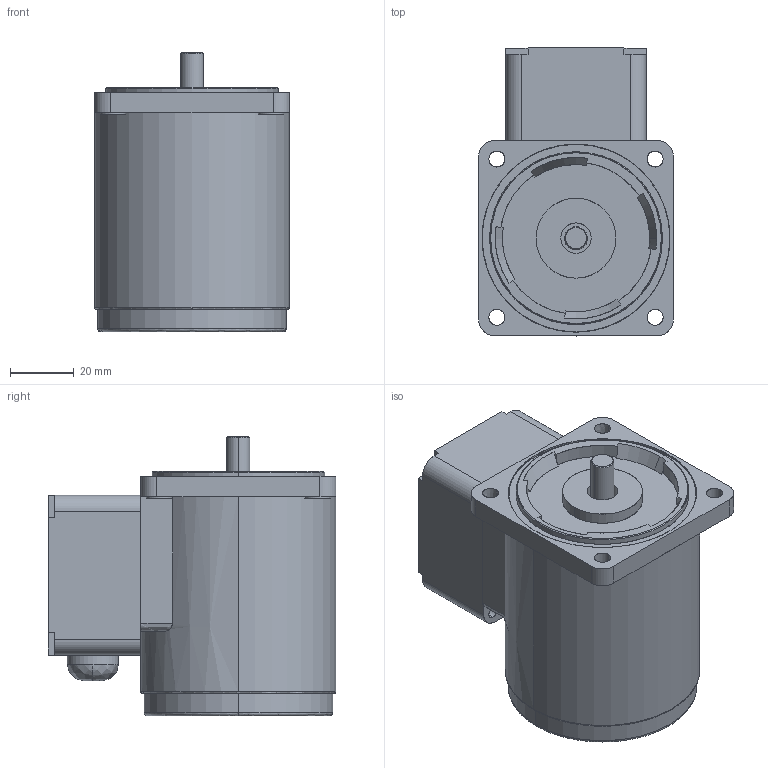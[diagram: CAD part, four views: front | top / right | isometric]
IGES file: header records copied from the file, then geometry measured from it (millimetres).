
Start section: SolidWorks IGES file using analytic representation for surfaces
Bounding box: 61 x 90 x 87.5 mm (x, y, z)
Surface area: 55353.3 mm2 (no closed solid volume)
Topology: 0 solids, 0 shells, 158 faces, 3094 edges, 3094 vertices
Faces by surface type: bspline 80, revolution 78
